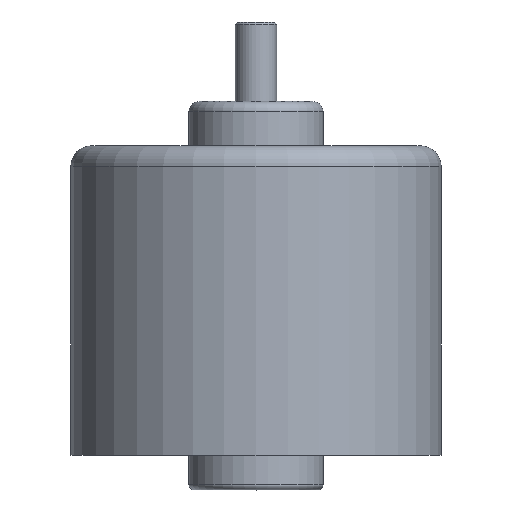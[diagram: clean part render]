
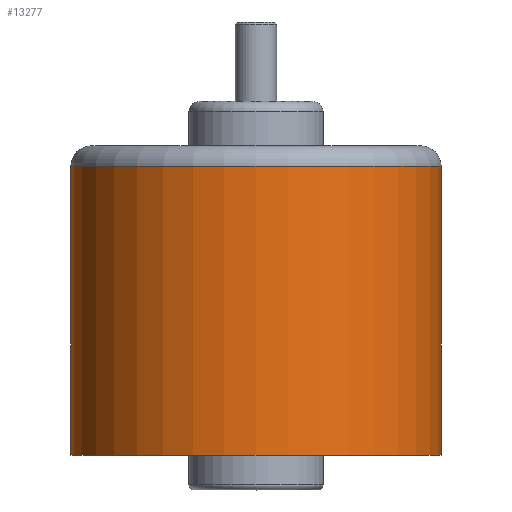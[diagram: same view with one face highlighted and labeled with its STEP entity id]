
A CAD part, top view. The second image highlights one B-rep face of the part: STEP entity #13277.
In plain terms, the highlighted cylindrical face has radius 17.95 mm (diameter 35.9 mm), a partial arc.
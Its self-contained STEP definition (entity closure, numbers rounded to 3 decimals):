
#295=CARTESIAN_POINT('',(0.,0.,0.));
#296=DIRECTION('',(0.,1.,0.));
#297=DIRECTION('',(-1.,0.,0.));
#298=AXIS2_PLACEMENT_3D('',#295,#296,#297);
#315=CARTESIAN_POINT('',(0.,28.,0.));
#316=DIRECTION('',(0.,1.,0.));
#317=DIRECTION('',(-1.,0.,0.));
#318=AXIS2_PLACEMENT_3D('',#315,#316,#317);
#375=DIRECTION('',(0.,-1.,0.));
#376=VECTOR('',#375,28.);
#377=CARTESIAN_POINT('',(-17.95,28.,0.));
#378=LINE('',#377,#376);
#379=DIRECTION('',(0.,1.,0.));
#380=VECTOR('',#379,28.);
#381=CARTESIAN_POINT('',(17.95,0.,0.));
#382=LINE('',#381,#380);
#10096=CARTESIAN_POINT('',(-17.95,0.,0.));
#10097=CARTESIAN_POINT('',(17.95,0.,0.));
#10098=VERTEX_POINT('',#10096);
#10099=VERTEX_POINT('',#10097);
#10124=CARTESIAN_POINT('',(-17.95,28.,0.));
#10125=CARTESIAN_POINT('',(17.95,28.,0.));
#10126=VERTEX_POINT('',#10124);
#10127=VERTEX_POINT('',#10125);
#13263=CARTESIAN_POINT('',(0.,0.,0.));
#13264=DIRECTION('',(0.,1.,0.));
#13265=DIRECTION('',(-1.,0.,0.));
#13266=AXIS2_PLACEMENT_3D('',#13263,#13264,#13265);
#13267=CYLINDRICAL_SURFACE('',#13266,17.95);
#13269=ORIENTED_EDGE('',*,*,#13268,.T.);
#13271=ORIENTED_EDGE('',*,*,#13270,.F.);
#13272=ORIENTED_EDGE('',*,*,#13251,.F.);
#13274=ORIENTED_EDGE('',*,*,#13273,.F.);
#13275=EDGE_LOOP('',(#13269,#13271,#13272,#13274));
#13276=FACE_OUTER_BOUND('',#13275,.F.);
#13277=ADVANCED_FACE('',(#13276),#13267,.T.);
#299=CIRCLE('',#298,17.95);
#319=CIRCLE('',#318,17.95);
#13251=EDGE_CURVE('',#10098,#10099,#299,.T.);
#13268=EDGE_CURVE('',#10126,#10127,#319,.T.);
#13270=EDGE_CURVE('',#10099,#10127,#382,.T.);
#13273=EDGE_CURVE('',#10126,#10098,#378,.T.);
